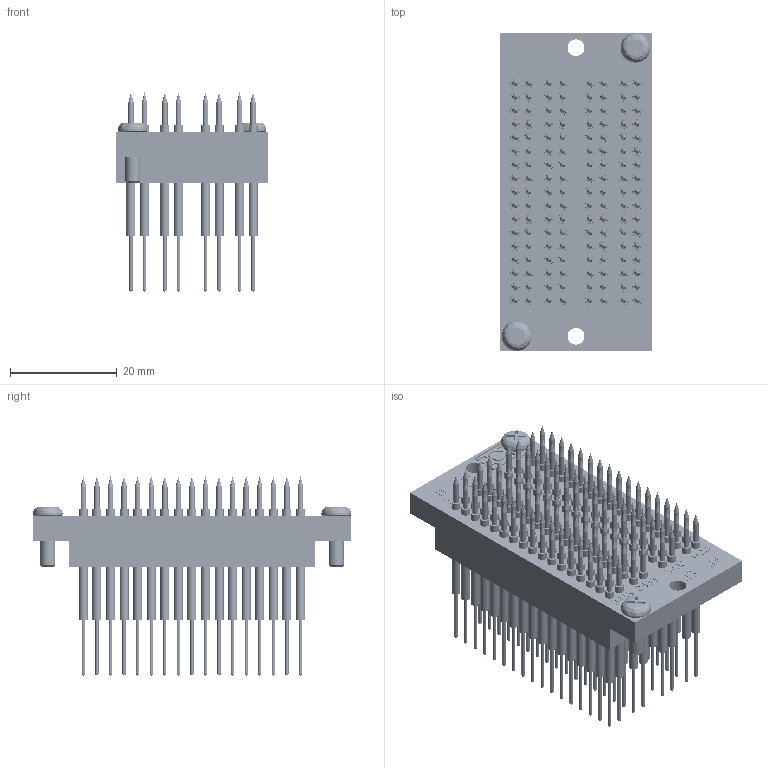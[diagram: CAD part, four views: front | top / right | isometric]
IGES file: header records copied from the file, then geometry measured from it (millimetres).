
Start section: SolidWorks IGES file using analytic representation for surfaces
Global section: file name: O:\VGFCB-136R.IGS; native system: SolidWorks 2016; preprocessor: SolidWorks 2016; author: kgolden; date: 180814.074829; units: millimetre
Bounding box: 28.32 x 59.56 x 37.28 mm (x, y, z)
Surface area: 57424.6 mm2 (no closed solid volume)
Topology: 0 solids, 0 shells, 5812 faces, 56332 edges, 55788 vertices
Faces by surface type: revolution 3014, bspline 2798
